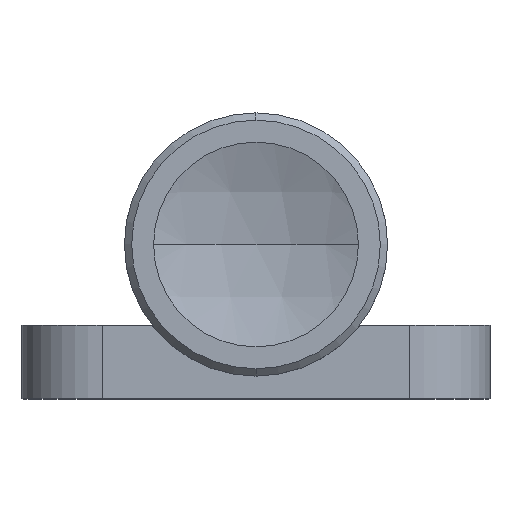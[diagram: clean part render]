
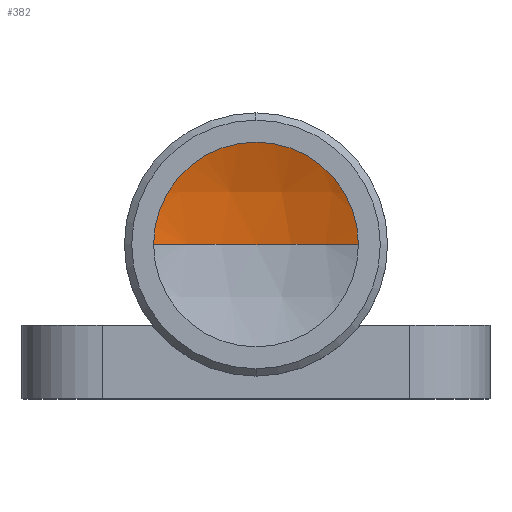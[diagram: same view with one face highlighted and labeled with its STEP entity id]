
A CAD part, top view. The second image highlights one B-rep face of the part: STEP entity #382.
In plain terms, the highlighted spherical face has radius 18 mm.
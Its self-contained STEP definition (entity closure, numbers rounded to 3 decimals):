
#16 = EDGE_LOOP ( 'NONE', ( #642, #919, #729 ) ) ;
#23 = EDGE_CURVE ( 'NONE', #1050, #1993, #1184, .T. ) ;
#67 = CIRCLE ( 'NONE', #1578, 7. ) ;
#100 = DIRECTION ( 'NONE',  ( 0., 0., -1. ) ) ;
#208 = CARTESIAN_POINT ( 'NONE',  ( 49., 0., 0. ) ) ;
#253 = DIRECTION ( 'NONE',  ( 0., 1., 0. ) ) ;
#355 = DIRECTION ( 'NONE',  ( 0., 0., 1. ) ) ;
#382 = ADVANCED_FACE ( 'NONE', ( #1829 ), #1272, .F. ) ;
#408 = DIRECTION ( 'NONE',  ( 0., 0., -1. ) ) ;
#479 = CIRCLE ( 'NONE', #2045, 18. ) ;
#642 = ORIENTED_EDGE ( 'NONE', *, *, #23, .F. ) ;
#729 = ORIENTED_EDGE ( 'NONE', *, *, #1761, .T. ) ;
#835 = DIRECTION ( 'NONE',  ( 1., 0., 0. ) ) ;
#919 = ORIENTED_EDGE ( 'NONE', *, *, #1071, .F. ) ;
#964 = AXIS2_PLACEMENT_3D ( 'NONE', #2142, #100, #253 ) ;
#1020 = DIRECTION ( 'NONE',  ( 0., 0., 1. ) ) ;
#1050 = VERTEX_POINT ( 'NONE', #1561 ) ;
#1071 = EDGE_CURVE ( 'NONE', #1152, #1050, #67, .T. ) ;
#1109 = DIRECTION ( 'NONE',  ( 0., 1., 0. ) ) ;
#1152 = VERTEX_POINT ( 'NONE', #1396 ) ;
#1184 = CIRCLE ( 'NONE', #964, 18. ) ;
#1264 = CARTESIAN_POINT ( 'NONE',  ( 47.583, 0., 0. ) ) ;
#1272 = SPHERICAL_SURFACE ( 'NONE', #1727, 18. ) ;
#1321 = CARTESIAN_POINT ( 'NONE',  ( 65.583, 0., 0. ) ) ;
#1396 = CARTESIAN_POINT ( 'NONE',  ( 49., 7., 0. ) ) ;
#1561 = CARTESIAN_POINT ( 'NONE',  ( 49., -7., 0. ) ) ;
#1578 = AXIS2_PLACEMENT_3D ( 'NONE', #208, #1908, #355 ) ;
#1727 = AXIS2_PLACEMENT_3D ( 'NONE', #1968, #408, #1109 ) ;
#1761 = EDGE_CURVE ( 'NONE', #1152, #1993, #479, .T. ) ;
#1829 = FACE_OUTER_BOUND ( 'NONE', #16, .T. ) ;
#1908 = DIRECTION ( 'NONE',  ( -1., 0., 0. ) ) ;
#1968 = CARTESIAN_POINT ( 'NONE',  ( 65.583, 0., 0. ) ) ;
#1993 = VERTEX_POINT ( 'NONE', #1264 ) ;
#2045 = AXIS2_PLACEMENT_3D ( 'NONE', #1321, #1020, #835 ) ;
#2142 = CARTESIAN_POINT ( 'NONE',  ( 65.583, 0., 0. ) ) ;
